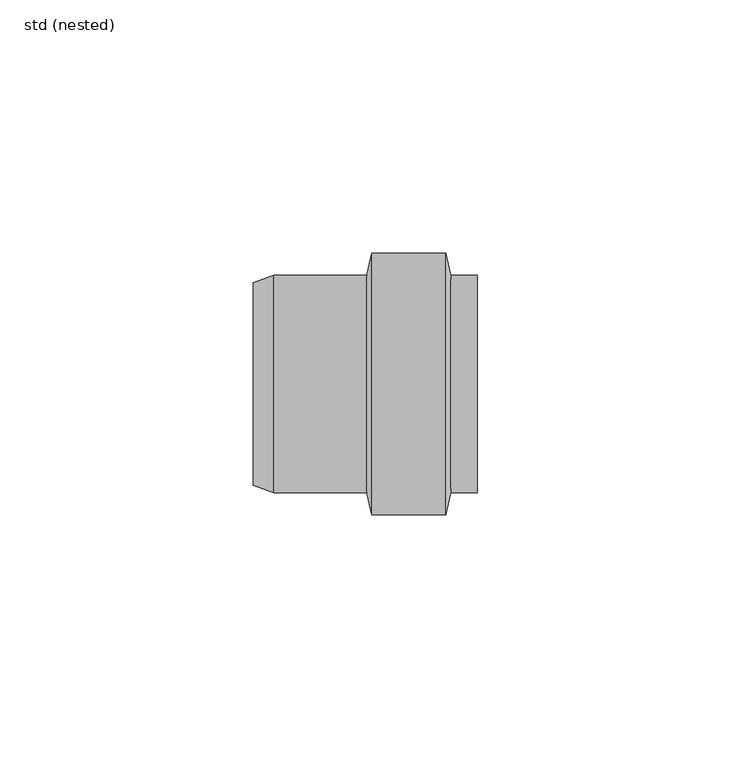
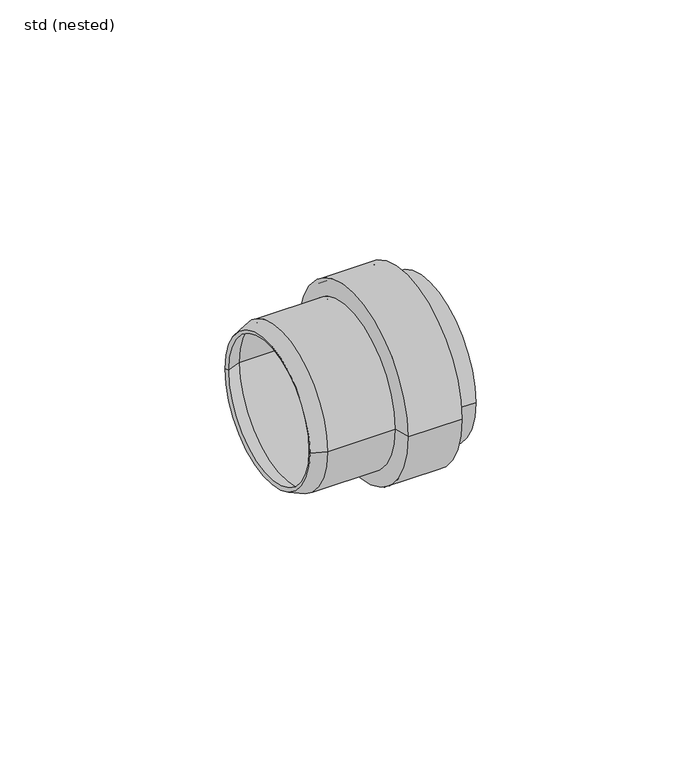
"""IFC4 building model written with IfcOpenShell, lengths in millimetres: pipe fitting geometry, ZZZ_do not use_PIF_ST_UN_ACO pipe socket_ACO : std (nested)."""

from ifc_helpers import new_model, si_unit, frame, origin, place, context, project, spatial, polyline, circle_curve, source, transform, mapped, element, save
from ifc_brep_helpers import plane_surface, cylinder_surface, revolved_surface, advanced_brep


def std_nested_c85e2763(model_context):
    return source(origin(), model_context, "Body", "AdvancedBrep", [
        advanced_brep(
        [(40.0, -20.5, 0.0), (40.0, 20.5, 0.0), (34.0, 20.5, 0.0), (34.0, -20.5, 0.0), (40.0, -21.5, 0.0), (40.0, 21.5, 0.0), (34.7920147, -21.5, 0.0), (34.7920147, 21.5, 0.0), (33.7920147, -25.75, 0.0), (33.7920147, 25.75, 0.0), (19.2079853, -25.75, 0.0), (19.2079853, 25.75, 0.0), (18.2079853, -21.5, 0.0), (18.2079853, 21.5, 0.0), (-0.1902264, -21.5, 0.0), (-0.1902264, 21.5, 0.0), (-4.1671665, -19.9301552, 0.0), (-4.1671665, 19.9301552, 0.0), (-3.8, -19.0, 0.0), (-3.8, 19.0, 0.0), (0.0, -20.5, 0.0), (0.0, 20.5, 0.0), (19.0, -20.5, 0.0), (19.0, 20.5, 0.0), (20.0, -24.75, 0.0), (20.0, 24.75, 0.0), (33.0, -24.75, 0.0), (33.0, 24.75, 0.0)],
        [
            (0, 1, circle_curve(frame((40.0, 0.0, 0.0), z_axis=(1.0, 0.0, 0.0), x_axis=(0.0, 1.0, 0.0)), 20.5)),
            (1, 2),
            (2, 3, circle_curve(frame((34.0, 0.0, 0.0), z_axis=(-1.0, 0.0, 0.0), x_axis=(0.0, 1.0, 0.0)), 20.5)),
            (3, 0),
            (1, 0, circle_curve(frame((40.0, 0.0, 0.0), z_axis=(1.0, 0.0, 0.0), x_axis=(0.0, 1.0, 0.0)), 20.5)),
            (3, 2, circle_curve(frame((34.0, 0.0, 0.0), z_axis=(-1.0, 0.0, 0.0), x_axis=(0.0, 1.0, 0.0)), 20.5)),
            (4, 5, circle_curve(frame((40.0, 0.0, 0.0), z_axis=(1.0, 0.0, 0.0), x_axis=(0.0, 1.0, 0.0)), 21.5)),
            (5, 1),
            (0, 4),
            (5, 4, circle_curve(frame((40.0, 0.0, 0.0), z_axis=(1.0, 0.0, 0.0), x_axis=(0.0, 1.0, 0.0)), 21.5)),
            (6, 7, circle_curve(frame((34.7920147, 0.0, 0.0), z_axis=(1.0, 0.0, 0.0), x_axis=(0.0, 1.0, 0.0)), 21.5)),
            (7, 5),
            (4, 6),
            (7, 6, circle_curve(frame((34.7920147, 0.0, 0.0), z_axis=(1.0, 0.0, 0.0), x_axis=(0.0, 1.0, 0.0)), 21.5)),
            (8, 9, circle_curve(frame((33.7920147, 0.0, 0.0), z_axis=(1.0, 0.0, 0.0), x_axis=(0.0, 1.0, 0.0)), 25.75)),
            (9, 7),
            (6, 8),
            (9, 8, circle_curve(frame((33.7920147, 0.0, 0.0), z_axis=(1.0, 0.0, 0.0), x_axis=(0.0, 1.0, 0.0)), 25.75)),
            (10, 11, circle_curve(frame((19.2079853, 0.0, 0.0), z_axis=(1.0, 0.0, 0.0), x_axis=(0.0, 1.0, 0.0)), 25.75)),
            (11, 9),
            (8, 10),
            (11, 10, circle_curve(frame((19.2079853, 0.0, 0.0), z_axis=(1.0, 0.0, 0.0), x_axis=(0.0, 1.0, 0.0)), 25.75)),
            (12, 13, circle_curve(frame((18.2079853, 0.0, 0.0), z_axis=(1.0, 0.0, 0.0), x_axis=(0.0, 1.0, 0.0)), 21.5)),
            (13, 11),
            (10, 12),
            (13, 12, circle_curve(frame((18.2079853, 0.0, 0.0), z_axis=(1.0, 0.0, 0.0), x_axis=(0.0, 1.0, 0.0)), 21.5)),
            (14, 15, circle_curve(frame((-0.1902264, 0.0, 0.0), z_axis=(1.0, 0.0, 0.0), x_axis=(0.0, 1.0, 0.0)), 21.5)),
            (15, 13),
            (12, 14),
            (15, 14, circle_curve(frame((-0.1902264, 0.0, 0.0), z_axis=(1.0, 0.0, 0.0), x_axis=(0.0, 1.0, 0.0)), 21.5)),
            (16, 17, circle_curve(frame((-4.1671665, 0.0, 0.0), z_axis=(1.0, 0.0, 0.0), x_axis=(0.0, 1.0, 0.0)), 19.9301552)),
            (17, 15),
            (14, 16),
            (17, 16, circle_curve(frame((-4.1671665, 0.0, 0.0), z_axis=(1.0, 0.0, 0.0), x_axis=(0.0, 1.0, 0.0)), 19.9301552)),
            (18, 19, circle_curve(frame((-3.8, 0.0, 0.0), z_axis=(1.0, 0.0, 0.0), x_axis=(0.0, 1.0, 0.0)), 19.0)),
            (19, 17),
            (16, 18),
            (19, 18, circle_curve(frame((-3.8, 0.0, 0.0), z_axis=(1.0, 0.0, 0.0), x_axis=(0.0, 1.0, 0.0)), 19.0)),
            (20, 21, circle_curve(frame((0.0, 0.0, 0.0), z_axis=(1.0, 0.0, 0.0), x_axis=(0.0, 1.0, 0.0)), 20.5)),
            (21, 19),
            (18, 20),
            (21, 20, circle_curve(frame((0.0, 0.0, 0.0), z_axis=(1.0, 0.0, 0.0), x_axis=(0.0, 1.0, 0.0)), 20.5)),
            (22, 23, circle_curve(frame((19.0, 0.0, 0.0), z_axis=(1.0, 0.0, 0.0), x_axis=(0.0, 1.0, 0.0)), 20.5)),
            (23, 21),
            (20, 22),
            (23, 22, circle_curve(frame((19.0, 0.0, 0.0), z_axis=(1.0, 0.0, 0.0), x_axis=(0.0, 1.0, 0.0)), 20.5)),
            (24, 25, circle_curve(frame((20.0, 0.0, 0.0), z_axis=(1.0, 0.0, 0.0), x_axis=(0.0, 1.0, 0.0)), 24.75)),
            (25, 23),
            (22, 24),
            (25, 24, circle_curve(frame((20.0, 0.0, 0.0), z_axis=(1.0, 0.0, 0.0), x_axis=(0.0, 1.0, 0.0)), 24.75)),
            (26, 27, circle_curve(frame((33.0, 0.0, 0.0), z_axis=(1.0, 0.0, 0.0), x_axis=(0.0, 1.0, 0.0)), 24.75)),
            (27, 25),
            (24, 26),
            (27, 26, circle_curve(frame((33.0, 0.0, 0.0), z_axis=(1.0, 0.0, 0.0), x_axis=(0.0, 1.0, 0.0)), 24.75)),
            (2, 27),
            (26, 3),
        ],
        [
            revolved_surface(polyline([(34.0, 20.5, 0.0), (40.0, 20.5, 0.0)]), (-16.268946, 0.0, 0.0), (-1.0, 0.0, 0.0)),
            plane_surface(frame((40.0, 0.0, 0.0), z_axis=(1.0, 0.0, 0.0), x_axis=(0.0, 1.0, 0.0))),
            cylinder_surface(frame((-16.268946, 0.0, 0.0), z_axis=(-1.0, 0.0, 0.0), x_axis=(0.0, 1.0, 0.0)), 21.5),
            revolved_surface(polyline([(34.7920147, 21.5, 0.0), (33.7920147, 25.75, 0.0)]), (-16.268946, 0.0, 0.0), (-1.0, 0.0, 0.0)),
            cylinder_surface(frame((-16.268946, 0.0, 0.0), z_axis=(-1.0, 0.0, 0.0), x_axis=(0.0, 1.0, 0.0)), 25.75),
            revolved_surface(polyline([(19.2079853, 25.75, 0.0), (18.2079853, 21.5, 0.0)]), (-16.268946, 0.0, 0.0), (-1.0, 0.0, 0.0)),
            revolved_surface(polyline([(-0.1902264, 21.5, 0.0), (-4.1671665, 19.9301552, 0.0)]), (-16.268946, 0.0, 0.0), (-1.0, 0.0, 0.0)),
            revolved_surface(polyline([(-4.1671665, 19.9301552, 0.0), (-3.8, 19.0, 0.0)]), (-16.268946, 0.0, 0.0), (-1.0, 0.0, 0.0)),
            revolved_surface(polyline([(-3.8, 19.0, 0.0), (0.0, 20.5, 0.0)]), (-16.268946, 0.0, 0.0), (-1.0, 0.0, 0.0)),
            revolved_surface(polyline([(0.0, 20.5, 0.0), (19.0, 20.5, 0.0)]), (-16.268946, 0.0, 0.0), (-1.0, 0.0, 0.0)),
            revolved_surface(polyline([(19.0, 20.5, 0.0), (20.0, 24.75, 0.0)]), (-16.268946, 0.0, 0.0), (-1.0, 0.0, 0.0)),
            revolved_surface(polyline([(20.0, 24.75, 0.0), (33.0, 24.75, 0.0)]), (-16.268946, 0.0, 0.0), (-1.0, 0.0, 0.0)),
            revolved_surface(polyline([(33.0, 24.75, 0.0), (34.0, 20.5, 0.0)]), (-16.268946, 0.0, 0.0), (-1.0, 0.0, 0.0)),
        ],
        [
            (0, [[1, 2, 3, 4]]),
            (0, [[5, -4, 6, -2]]),
            (1, [[7, 8, -1, 9]]),
            (1, [[10, -9, -5, -8]]),
            (2, [[11, 12, -7, 13]]),
            (2, [[14, -13, -10, -12]]),
            (3, [[15, 16, -11, 17]]),
            (3, [[18, -17, -14, -16]]),
            (4, [[19, 20, -15, 21]]),
            (4, [[22, -21, -18, -20]]),
            (5, [[23, 24, -19, 25]]),
            (5, [[26, -25, -22, -24]]),
            (2, [[27, 28, -23, 29]]),
            (2, [[30, -29, -26, -28]]),
            (6, [[31, 32, -27, 33]]),
            (6, [[34, -33, -30, -32]]),
            (7, [[35, 36, -31, 37]]),
            (7, [[38, -37, -34, -36]]),
            (8, [[39, 40, -35, 41]]),
            (8, [[42, -41, -38, -40]]),
            (9, [[43, 44, -39, 45]]),
            (9, [[46, -45, -42, -44]]),
            (10, [[47, 48, -43, 49]]),
            (10, [[50, -49, -46, -48]]),
            (11, [[51, 52, -47, 53]]),
            (11, [[54, -53, -50, -52]]),
            (12, [[-3, 55, -51, 56]]),
            (12, [[-6, -56, -54, -55]]),
        ],
    ),
    ])


if __name__ == "__main__":
    model = new_model("IFC4")
    model_context = context("Model", 3, world=origin())
    ifc_project = project(units=[si_unit("LENGTHUNIT", "METRE", prefix="MILLI")], contexts=[model_context])
    site = spatial("IfcSite", under=ifc_project)
    building = spatial("IfcBuilding", under=site)
    placement = place(None, origin())
    std_nested_shape = std_nested_c85e2763(model_context)
    element("IfcPipeFitting", 1, ObjectType="ZZZ_do not use_PIF_ST_UN_ACO pipe socket_ACO : std (nested)", at=placement, inside=building, context=model_context, shape_type="MappedRepresentation", body=[
        mapped(std_nested_shape, transform((0.0, 0.0, 0.0), x_axis=(1.0, 0.0, 0.0), y_axis=(0.0, 1.0, 0.0), z_axis=(0.0, 0.0, 1.0))),
    ])
    save(model, "model.ifc")
